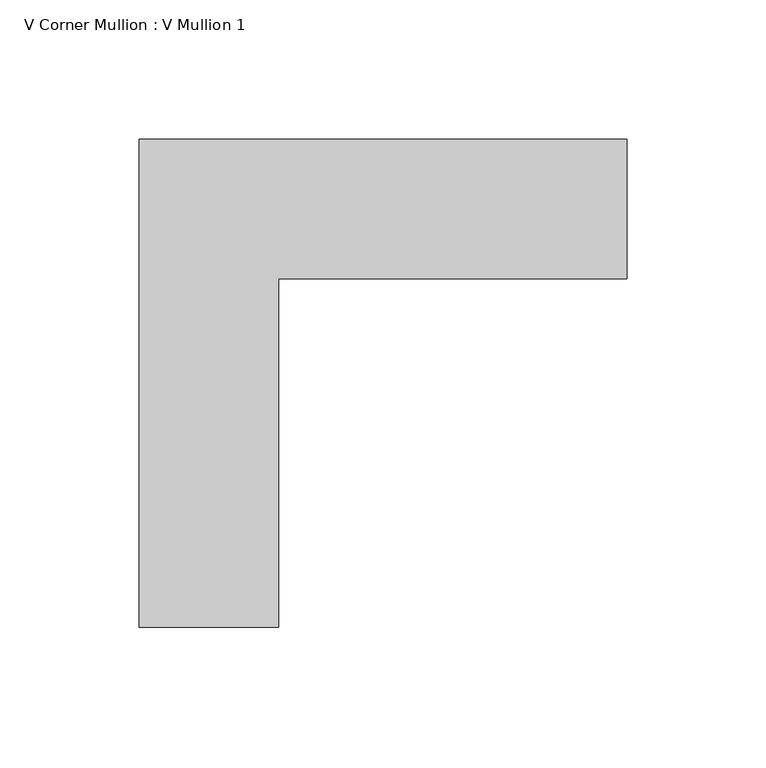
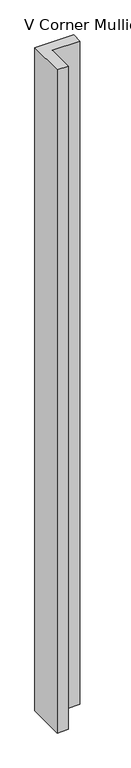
"""IFC4 building model written with IfcOpenShell, lengths in millimetres: member geometry, V Corner Mullion : V Mullion 1."""

import ifcopenshell
import ifcopenshell.guid

model = None  # the IFC model being written
_history = None  # IfcOwnerHistory: only IFC2X3 demands one
_inside = {}  # id of a spatial element -> (the spatial element, [elements in it])
_under = {}  # id of a project, library or spatial element -> (it, [spatial elements below it])
_declared = {}  # id of a project -> (the project, [libraries it declares])
_typed = {}  # id of a type object -> (the type object, [elements of that type])
_made_of = {}  # id of a material, layer set ... -> (it, [elements and type objects made of it])


def new_model(schema):
    """Start an empty IFC model of exactly this schema.

    Asked for "IFC4X3", IfcOpenShell would pick the latest addendum, in which some entities
    have other attributes; the version numbers below select the first issue.
    IFC2X3 requires an IfcOwnerHistory on every rooted entity: one is made here for all.
    """
    global model, _history
    if schema == "IFC4X3":
        model = ifcopenshell.file(schema_version=(4, 3, 0, 0))
    else:
        model = ifcopenshell.file(schema=schema)
    _inside.clear()
    _under.clear()
    _declared.clear()
    _typed.clear()
    _made_of.clear()
    _history = None
    if model.schema == "IFC2X3":
        org = make("IfcOrganization", Name="unknown")
        user = make(
            "IfcPersonAndOrganization",
            ThePerson=make("IfcPerson", FamilyName="unknown"),
            TheOrganization=org,
        )
        app = make(
            "IfcApplication",
            ApplicationDeveloper=org,
            Version="unknown",
            ApplicationFullName="unknown",
            ApplicationIdentifier="unknown",
        )
        _history = make(
            "IfcOwnerHistory",
            OwningUser=user,
            OwningApplication=app,
            ChangeAction="ADDED",
            CreationDate=0,
        )
    return model


def make(cls, **values):
    """One entity of the class cls with the attributes given. An attribute that is None is left unset."""
    return model.create_entity(
        cls, **{name: value for name, value in values.items() if value is not None}
    )


def rooted(cls, **values):
    """An entity with a GlobalId (a new one), such as an element, a storey or a relation."""
    return make(cls, GlobalId=ifcopenshell.guid.new(), OwnerHistory=_history, **values)


def si_unit(unit_type, name, prefix=None):
    """IfcSIUnit, for example si_unit("LENGTHUNIT", "METRE", prefix="MILLI")."""
    return make("IfcSIUnit", UnitType=unit_type, Prefix=prefix, Name=name)


def assignment(units):
    """IfcUnitAssignment: the units of a project."""
    return None if units is None else make("IfcUnitAssignment", Units=units)


def point(xyz):
    """IfcCartesianPoint."""
    return None if xyz is None else make("IfcCartesianPoint", Coordinates=xyz)


def direction(xyz):
    """IfcDirection."""
    return None if xyz is None else make("IfcDirection", DirectionRatios=xyz)


def frame(location, z_axis=None, x_axis=None):
    """IfcAxis2Placement3D, a coordinate frame: its origin and axes. An axis left out is left unset."""
    return make(
        "IfcAxis2Placement3D",
        Location=point(location),
        Axis=direction(z_axis),
        RefDirection=direction(x_axis),
    )


def origin():
    """The frame at (0, 0, 0) with its axes left unset."""
    return frame((0.0, 0.0, 0.0))


def place(relative_to, where):
    """IfcLocalPlacement: puts the frame where relative to a parent placement (None: the world)."""
    return make(
        "IfcLocalPlacement", PlacementRelTo=relative_to, RelativePlacement=where
    )


def context(
    kind, dimensions, precision=None, world=None, true_north=None, identifier=None
):
    """IfcGeometricRepresentationContext, for example the 3D "Model" context."""
    return make(
        "IfcGeometricRepresentationContext",
        ContextIdentifier=identifier,
        ContextType=kind,
        CoordinateSpaceDimension=dimensions,
        Precision=precision,
        WorldCoordinateSystem=world,
        TrueNorth=true_north,
    )


def project(units=None, contexts=None):
    """IfcProject with its units and contexts."""
    return rooted(
        "IfcProject",
        Name="project",
        RepresentationContexts=contexts,
        UnitsInContext=assignment(units),
    )


def spatial(cls, under=None, at=None, **own):
    """A site, building, storey or space (cls), placed at a placement, below another one or the project."""
    s = rooted(cls, ObjectPlacement=at, **own)
    if under is not None:
        _under.setdefault(under.id(), (under, []))[1].append(s)
    return s


def polyline(points):
    """IfcPolyline through the points."""
    return make("IfcPolyline", Points=[point(p) for p in points])


def outline(outer, holes=None, kind="AREA"):
    """IfcArbitraryClosedProfileDef: a profile drawn as a closed curve; with holes, ...WithVoids."""
    if holes is None:
        return make("IfcArbitraryClosedProfileDef", ProfileType=kind, OuterCurve=outer)
    return make(
        "IfcArbitraryProfileDefWithVoids",
        ProfileType=kind,
        OuterCurve=outer,
        InnerCurves=holes,
    )


def extrude(swept, where, along, depth):
    """IfcExtrudedAreaSolid: the profile swept, set in the frame where, extruded along a direction by depth."""
    return make(
        "IfcExtrudedAreaSolid",
        SweptArea=swept,
        Position=where,
        ExtrudedDirection=direction(along),
        Depth=depth,
    )


def shape(context_of_items, identifier, shape_type, items):
    """IfcShapeRepresentation: the items that make up one representation, for example the "Body"."""
    return make(
        "IfcShapeRepresentation",
        ContextOfItems=context_of_items,
        RepresentationIdentifier=identifier,
        RepresentationType=shape_type,
        Items=items,
    )


def source(mapping_origin, context_of_items, identifier, shape_type, items):
    """IfcRepresentationMap: a shape defined once, which mapped items show again and again."""
    return make(
        "IfcRepresentationMap",
        MappingOrigin=mapping_origin,
        MappedRepresentation=shape(context_of_items, identifier, shape_type, items),
    )


def transform(
    local_origin,
    x_axis=None,
    y_axis=None,
    z_axis=None,
    scale=None,
    scale2=None,
    scale3=None,
    uniform=True,
):
    """IfcCartesianTransformationOperator3D, or its non-uniform kind. x_axis, y_axis, z_axis: its Axis1, 2, 3."""
    if uniform:
        return make(
            "IfcCartesianTransformationOperator3D",
            Axis1=direction(x_axis),
            Axis2=direction(y_axis),
            LocalOrigin=point(local_origin),
            Scale=scale,
            Axis3=direction(z_axis),
        )
    return make(
        "IfcCartesianTransformationOperator3DnonUniform",
        Axis1=direction(x_axis),
        Axis2=direction(y_axis),
        LocalOrigin=point(local_origin),
        Scale=scale,
        Axis3=direction(z_axis),
        Scale2=scale2,
        Scale3=scale3,
    )


def mapped(mapping_source, mapping_target):
    """IfcMappedItem: shows the shape of a source again, moved by a transform."""
    return make(
        "IfcMappedItem", MappingSource=mapping_source, MappingTarget=mapping_target
    )


def made_of(thing, what):
    """Note that an element or type object is made of a material, layer set ...; save() writes the relation."""
    if what is not None:
        _made_of.setdefault(what.id(), (what, []))[1].append(thing)
    return thing


def element(
    cls,
    number,
    at=None,
    inside=None,
    cuts=None,
    type_object=None,
    material=None,
    context=None,
    identifier="Body",
    shape_type=None,
    held_by="IfcProductDefinitionShape",
    body=None,
    shapes=None,
    **own,
):
    """One element of the class cls, such as IfcWall. Its Tag is "e" and its number.

    at: its placement. inside: the storey or other place that contains it. cuts: it is an
    opening in that element (IfcRelVoidsElement). A single representation is given by context,
    identifier, shape_type and body (its items); several are given by shapes. held_by: the class
    of the entity that holds the representations. save() writes the other relations.
    """
    e = rooted(cls, Tag="e%d" % number, ObjectPlacement=at, **own)
    if body is not None:
        shapes = [shape(context, identifier, shape_type, body)]
    if shapes is not None:
        e.Representation = make(held_by, Representations=shapes)
    if inside is not None:
        _inside.setdefault(inside.id(), (inside, []))[1].append(e)
    if cuts is not None:
        rooted(
            "IfcRelVoidsElement", RelatingBuildingElement=cuts, RelatedOpeningElement=e
        )
    if type_object is not None:
        _typed.setdefault(type_object.id(), (type_object, []))[1].append(e)
    return made_of(e, material)


def aggregate(whole, parts):
    """IfcRelAggregates: a whole, such as a stair, and the parts it consists of."""
    return rooted("IfcRelAggregates", RelatingObject=whole, RelatedObjects=parts)


def save(model, path):
    """Write the relations noted so far, then the file.

    IfcRelAggregates (storeys below a building ...), IfcRelContainedInSpatialStructure (elements
    in a storey), IfcRelDefinesByType, IfcRelAssociatesMaterial and IfcRelDeclares: one each for
    every whole, place, type object, material and project.
    """
    for whole, parts in _under.values():
        aggregate(whole, parts)
    for where, things in _inside.values():
        rooted(
            "IfcRelContainedInSpatialStructure",
            RelatedElements=things,
            RelatingStructure=where,
        )
    for kind, things in _typed.values():
        rooted("IfcRelDefinesByType", RelatedObjects=things, RelatingType=kind)
    for what, things in _made_of.values():
        rooted("IfcRelAssociatesMaterial", RelatedObjects=things, RelatingMaterial=what)
    for by, libraries in _declared.values():
        rooted("IfcRelDeclares", RelatingContext=by, RelatedDefinitions=libraries)
    model.write(path)


def v_corner_mullion_v_mullion_1_7bbb4fbd(model_context):
    return source(origin(), model_context, "Body", "SweptSolid", [
        extrude(outline(polyline([(75.0, 50.0), (-50.0, 50.0), (-50.0, -75.0), (-100.0, -75.0), (-100.0, 100.0), (75.0, 100.0), (75.0, 50.0)])), frame((0.0, 0.0, -3175.0), z_axis=(0.0, 0.0, 1.0), x_axis=(1.0, 0.0, 0.0)), (0.0, 0.0, 1.0), 3175.0),
    ])


if __name__ == "__main__":
    model = new_model("IFC4")
    model_context = context("Model", 3, world=origin())
    ifc_project = project(units=[si_unit("LENGTHUNIT", "METRE", prefix="MILLI")], contexts=[model_context])
    site = spatial("IfcSite", under=ifc_project)
    building = spatial("IfcBuilding", under=site)
    placement = place(None, origin())
    v_corner_mullion_v_mullion_1_shape = v_corner_mullion_v_mullion_1_7bbb4fbd(model_context)
    element("IfcMember", 1, ObjectType="V Corner Mullion : V Mullion 1", at=placement, inside=building, context=model_context, shape_type="MappedRepresentation", body=[
        mapped(v_corner_mullion_v_mullion_1_shape, transform((0.0, 0.0, 0.0), x_axis=(1.0, 0.0, 0.0), y_axis=(0.0, 1.0, 0.0), z_axis=(0.0, 0.0, 1.0))),
    ])
    save(model, "model.ifc")
